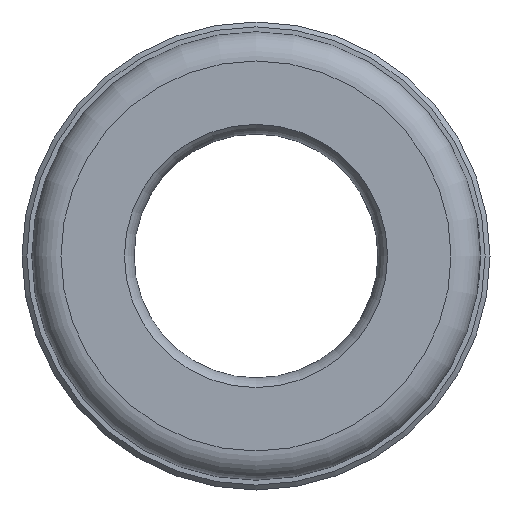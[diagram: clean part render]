
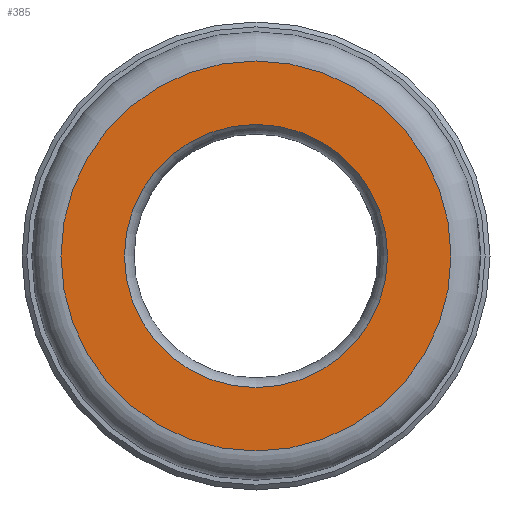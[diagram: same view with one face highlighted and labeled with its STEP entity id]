
A CAD part, left-side view. The second image highlights one B-rep face of the part: STEP entity #385.
In plain terms, the highlighted planar face has unit normal (-1, 0, 0).
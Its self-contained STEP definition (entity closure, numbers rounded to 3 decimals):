
#20=FACE_BOUND('',#87,.T.);
#24=PLANE('',#439);
#36=CIRCLE('',#436,20.);
#38=CIRCLE('',#440,13.5);
#63=FACE_OUTER_BOUND('',#86,.T.);
#86=EDGE_LOOP('',(#270));
#87=EDGE_LOOP('',(#271));
#163=VERTEX_POINT('',#689);
#165=VERTEX_POINT('',#698);
#199=EDGE_CURVE('',#163,#163,#36,.T.);
#203=EDGE_CURVE('',#165,#165,#38,.T.);
#270=ORIENTED_EDGE('',*,*,#199,.F.);
#271=ORIENTED_EDGE('',*,*,#203,.T.);
#385=ADVANCED_FACE('',(#63,#20),#24,.T.);
#436=AXIS2_PLACEMENT_3D('',#691,#502,#503);
#439=AXIS2_PLACEMENT_3D('',#697,#510,#511);
#440=AXIS2_PLACEMENT_3D('',#699,#512,#513);
#502=DIRECTION('center_axis',(1.,0.,0.));
#503=DIRECTION('ref_axis',(0.,-1.,0.));
#510=DIRECTION('center_axis',(-1.,0.,0.));
#511=DIRECTION('ref_axis',(0.,0.,1.));
#512=DIRECTION('center_axis',(1.,0.,0.));
#513=DIRECTION('ref_axis',(0.,0.,-1.));
#689=CARTESIAN_POINT('',(0.,0.,20.));
#691=CARTESIAN_POINT('Origin',(0.,0.,0.));
#697=CARTESIAN_POINT('Origin',(0.,23.,0.));
#698=CARTESIAN_POINT('',(0.,-13.5,0.));
#699=CARTESIAN_POINT('Origin',(0.,0.,0.));
